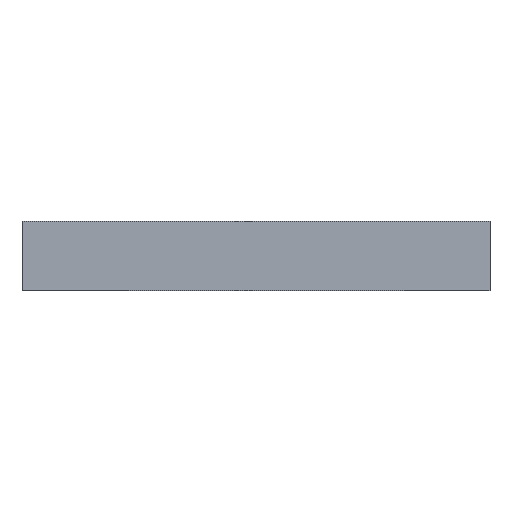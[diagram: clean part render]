
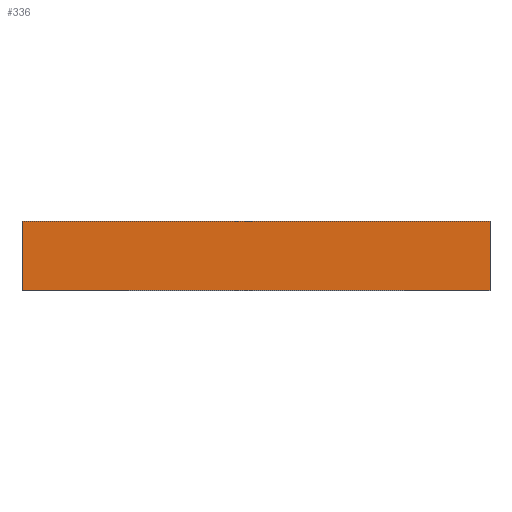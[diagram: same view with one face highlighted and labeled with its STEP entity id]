
A CAD part, top view. The second image highlights one B-rep face of the part: STEP entity #336.
In plain terms, the highlighted planar face has unit normal (0, 0, 1).
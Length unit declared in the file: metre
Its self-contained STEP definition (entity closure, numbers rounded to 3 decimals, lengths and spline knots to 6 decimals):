
#50=ORIENTED_EDGE('',*,*,#149,.T.);
#51=ORIENTED_EDGE('',*,*,#148,.F.);
#52=ORIENTED_EDGE('',*,*,#150,.F.);
#53=ORIENTED_EDGE('',*,*,#151,.T.);
#148=EDGE_CURVE('',#197,#196,#227,.T.);
#149=EDGE_CURVE('',#198,#196,#228,.T.);
#150=EDGE_CURVE('',#199,#197,#229,.T.);
#151=EDGE_CURVE('',#199,#198,#230,.T.);
#196=VERTEX_POINT('',#470);
#197=VERTEX_POINT('',#472);
#198=VERTEX_POINT('',#476);
#199=VERTEX_POINT('',#478);
#227=LINE('',#473,#257);
#228=LINE('',#475,#258);
#229=LINE('',#477,#259);
#230=LINE('',#479,#260);
#257=VECTOR('',#394,1.);
#258=VECTOR('',#397,1.);
#259=VECTOR('',#398,1.);
#260=VECTOR('',#399,1.);
#282=EDGE_LOOP('',(#50,#51,#52,#53));
#302=FACE_BOUND('',#282,.T.);
#322=PLANE('',#369);
#336=ADVANCED_FACE('',(#302),#322,.F.);
#369=AXIS2_PLACEMENT_3D('',#474,#395,#396);
#394=DIRECTION('',(0.,-1.,0.));
#395=DIRECTION('',(0.,0.,-1.));
#396=DIRECTION('',(1.,0.,0.));
#397=DIRECTION('',(1.,0.,0.));
#398=DIRECTION('',(1.,0.,0.));
#399=DIRECTION('',(0.,-1.,0.));
#470=CARTESIAN_POINT('',(0.0678,0.033,0.0218));
#472=CARTESIAN_POINT('',(0.0678,0.053,0.0218));
#473=CARTESIAN_POINT('',(0.0678,0.053,0.0218));
#474=CARTESIAN_POINT('',(0.,0.053,0.0218));
#475=CARTESIAN_POINT('',(0.,0.033,0.0218));
#476=CARTESIAN_POINT('',(-0.0678,0.033,0.0218));
#477=CARTESIAN_POINT('',(0.,0.053,0.0218));
#478=CARTESIAN_POINT('',(-0.0678,0.053,0.0218));
#479=CARTESIAN_POINT('',(-0.0678,0.053,0.0218));
